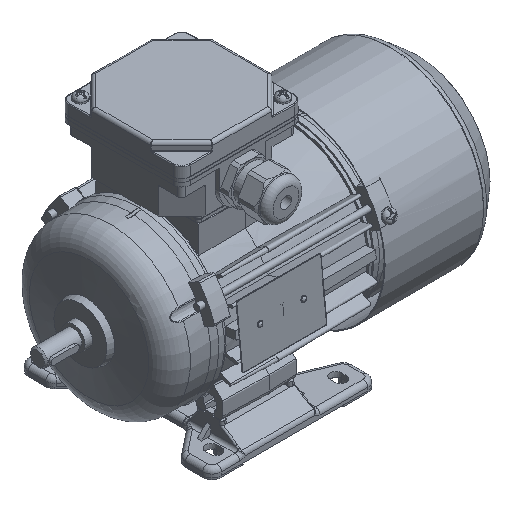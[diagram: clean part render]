
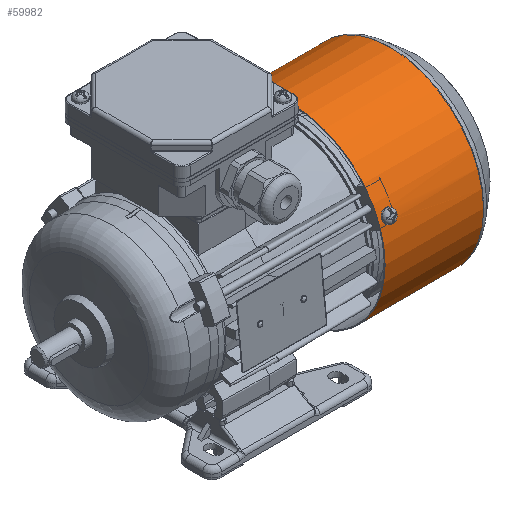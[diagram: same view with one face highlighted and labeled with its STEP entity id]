
A CAD part, isometric view. The second image highlights one B-rep face of the part: STEP entity #59982.
In plain terms, the highlighted cylindrical face has radius 59.6 mm (diameter 119.2 mm), a full revolution.
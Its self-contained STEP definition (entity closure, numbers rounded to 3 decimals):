
#1370=CYLINDRICAL_SURFACE('',#63666,59.6);
#1945=B_SPLINE_CURVE_WITH_KNOTS('',3,(#89982,#89983,#89984,#89985,#89986,
#89987,#89988),.UNSPECIFIED.,.F.,.F.,(4,1,1,1,4),(0.,
0.002,0.004,0.006,0.007),
 .UNSPECIFIED.);
#1946=B_SPLINE_CURVE_WITH_KNOTS('',3,(#89990,#89991,#89992,#89993,#89994,
#89995,#89996),.UNSPECIFIED.,.F.,.F.,(4,1,1,1,4),(0.,
0.002,0.004,0.006,0.007),
 .UNSPECIFIED.);
#1947=B_SPLINE_CURVE_WITH_KNOTS('',3,(#90002,#90003,#90004,#90005,#90006,
#90007,#90008),.UNSPECIFIED.,.F.,.F.,(4,1,1,1,4),(0.,0.002,
0.004,0.006,0.008),
 .UNSPECIFIED.);
#1948=B_SPLINE_CURVE_WITH_KNOTS('',3,(#90016,#90017,#90018,#90019,#90020,
#90021,#90022),.UNSPECIFIED.,.F.,.F.,(4,1,1,1,4),(0.,
0.002,0.004,0.006,0.008),
 .UNSPECIFIED.);
#1949=B_SPLINE_CURVE_WITH_KNOTS('',3,(#90033,#90034,#90035,#90036,#90037,
#90038,#90039),.UNSPECIFIED.,.F.,.F.,(4,1,1,1,4),(0.,0.002,
0.004,0.006,0.008),
 .UNSPECIFIED.);
#1950=B_SPLINE_CURVE_WITH_KNOTS('',3,(#90047,#90048,#90049,#90050,#90051,
#90052,#90053),.UNSPECIFIED.,.F.,.F.,(4,1,1,1,4),(0.,0.002,
0.004,0.006,0.008),
 .UNSPECIFIED.);
#3841=CIRCLE('',#63573,59.6);
#3842=CIRCLE('',#63576,59.6);
#3843=CIRCLE('',#63578,59.6);
#3844=CIRCLE('',#63581,59.6);
#3845=CIRCLE('',#63584,59.6);
#3887=CIRCLE('',#63667,59.6);
#13577=ORIENTED_EDGE('',*,*,#21996,.T.);
#13578=ORIENTED_EDGE('',*,*,#21994,.T.);
#13579=ORIENTED_EDGE('',*,*,#21992,.T.);
#13580=ORIENTED_EDGE('',*,*,#21997,.T.);
#13581=ORIENTED_EDGE('',*,*,#21979,.F.);
#13582=ORIENTED_EDGE('',*,*,#21980,.F.);
#13583=ORIENTED_EDGE('',*,*,#21987,.T.);
#13584=ORIENTED_EDGE('',*,*,#21985,.T.);
#13585=ORIENTED_EDGE('',*,*,#21983,.T.);
#13586=ORIENTED_EDGE('',*,*,#21988,.T.);
#13587=ORIENTED_EDGE('',*,*,#22100,.F.);
#13588=ORIENTED_EDGE('',*,*,#21989,.T.);
#21979=EDGE_CURVE('',#26904,#26903,#1945,.T.);
#21980=EDGE_CURVE('',#26903,#26904,#1946,.T.);
#21983=EDGE_CURVE('',#26952,#26953,#1947,.T.);
#21985=EDGE_CURVE('',#26954,#26952,#3841,.F.);
#21987=EDGE_CURVE('',#26955,#26954,#1948,.T.);
#21988=EDGE_CURVE('',#26953,#26955,#3842,.F.);
#21989=EDGE_CURVE('',#26956,#26956,#3843,.F.);
#21992=EDGE_CURVE('',#26957,#26958,#1949,.T.);
#21994=EDGE_CURVE('',#26959,#26957,#3844,.F.);
#21996=EDGE_CURVE('',#26960,#26959,#1950,.T.);
#21997=EDGE_CURVE('',#26958,#26960,#3845,.F.);
#22100=EDGE_CURVE('',#27038,#27038,#3887,.T.);
#26903=VERTEX_POINT('',#89819);
#26904=VERTEX_POINT('',#89820);
#26952=VERTEX_POINT('',#89999);
#26953=VERTEX_POINT('',#90001);
#26954=VERTEX_POINT('',#90011);
#26955=VERTEX_POINT('',#90015);
#26956=VERTEX_POINT('',#90027);
#26957=VERTEX_POINT('',#90030);
#26958=VERTEX_POINT('',#90032);
#26959=VERTEX_POINT('',#90042);
#26960=VERTEX_POINT('',#90046);
#27038=VERTEX_POINT('',#90364);
#36678=EDGE_LOOP('',(#13577,#13578,#13579,#13580));
#36679=EDGE_LOOP('',(#13581,#13582));
#36680=EDGE_LOOP('',(#13583,#13584,#13585,#13586));
#36681=EDGE_LOOP('',(#13587));
#36682=EDGE_LOOP('',(#13588));
#39460=FACE_BOUND('',#36678,.T.);
#39461=FACE_BOUND('',#36679,.T.);
#39462=FACE_BOUND('',#36680,.T.);
#39463=FACE_BOUND('',#36681,.T.);
#39464=FACE_BOUND('',#36682,.T.);
#59982=ADVANCED_FACE('',(#39460,#39461,#39462,#39463,#39464),#1370,.T.);
#63573=AXIS2_PLACEMENT_3D('',#90012,#73464,#73465);
#63576=AXIS2_PLACEMENT_3D('',#90024,#73471,#73472);
#63578=AXIS2_PLACEMENT_3D('',#90026,#73475,#73476);
#63581=AXIS2_PLACEMENT_3D('',#90043,#73484,#73485);
#63584=AXIS2_PLACEMENT_3D('',#90055,#73491,#73492);
#63666=AXIS2_PLACEMENT_3D('',#90362,#73706,#73707);
#63667=AXIS2_PLACEMENT_3D('',#90363,#73708,#73709);
#73464=DIRECTION('',(-1.,0.,0.));
#73465=DIRECTION('',(0.,0.866,-0.5));
#73471=DIRECTION('',(1.,0.,0.));
#73472=DIRECTION('',(0.,-0.866,0.5));
#73475=DIRECTION('',(1.,0.,0.));
#73476=DIRECTION('',(0.,0.,-1.));
#73484=DIRECTION('',(-1.,0.,0.));
#73485=DIRECTION('',(0.,0.,1.));
#73491=DIRECTION('',(1.,0.,0.));
#73492=DIRECTION('',(0.,0.,-1.));
#73706=DIRECTION('',(-1.,0.,0.));
#73707=DIRECTION('',(0.,0.,1.));
#73708=DIRECTION('',(-1.,0.,0.));
#73709=DIRECTION('',(0.,0.,1.));
#89819=CARTESIAN_POINT('',(67.,8.295,-59.02));
#89820=CARTESIAN_POINT('',(72.,8.295,-59.02));
#89982=CARTESIAN_POINT('',(72.,8.295,-59.02));
#89983=CARTESIAN_POINT('',(71.937,7.681,-59.106));
#89984=CARTESIAN_POINT('',(71.356,6.499,-59.249));
#89985=CARTESIAN_POINT('',(69.502,5.777,-59.318));
#89986=CARTESIAN_POINT('',(67.649,6.493,-59.25));
#89987=CARTESIAN_POINT('',(67.063,7.681,-59.106));
#89988=CARTESIAN_POINT('',(67.,8.295,-59.02));
#89990=CARTESIAN_POINT('',(67.,8.295,-59.02));
#89991=CARTESIAN_POINT('',(67.063,8.908,-58.934));
#89992=CARTESIAN_POINT('',(67.644,10.084,-58.746));
#89993=CARTESIAN_POINT('',(69.498,10.797,-58.613));
#89994=CARTESIAN_POINT('',(71.351,10.09,-58.745));
#89995=CARTESIAN_POINT('',(71.937,8.908,-58.934));
#89996=CARTESIAN_POINT('',(72.,8.295,-59.02));
#89999=CARTESIAN_POINT('',(72.,46.437,37.36));
#90001=CARTESIAN_POINT('',(67.,46.437,37.36));
#90002=CARTESIAN_POINT('',(72.,46.437,37.36));
#90003=CARTESIAN_POINT('',(72.,46.023,37.874));
#90004=CARTESIAN_POINT('',(71.458,45.191,38.867));
#90005=CARTESIAN_POINT('',(69.502,44.648,39.479));
#90006=CARTESIAN_POINT('',(67.542,45.19,38.869));
#90007=CARTESIAN_POINT('',(67.,46.023,37.874));
#90008=CARTESIAN_POINT('',(67.,46.437,37.36));
#90011=CARTESIAN_POINT('',(72.,47.484,36.02));
#90012=CARTESIAN_POINT('',(72.,0.,0.));
#90015=CARTESIAN_POINT('',(67.,47.484,36.02));
#90016=CARTESIAN_POINT('',(67.,47.484,36.02));
#90017=CARTESIAN_POINT('',(67.,47.883,35.493));
#90018=CARTESIAN_POINT('',(67.542,48.645,34.446));
#90019=CARTESIAN_POINT('',(69.498,49.108,33.771));
#90020=CARTESIAN_POINT('',(71.458,48.646,34.444));
#90021=CARTESIAN_POINT('',(72.,47.883,35.493));
#90022=CARTESIAN_POINT('',(72.,47.484,36.02));
#90024=CARTESIAN_POINT('',(67.,0.,0.));
#90026=CARTESIAN_POINT('',(126.809,0.,0.));
#90027=CARTESIAN_POINT('',(126.809,0.,-59.6));
#90030=CARTESIAN_POINT('',(72.,-55.573,21.536));
#90032=CARTESIAN_POINT('',(67.,-55.573,21.536));
#90033=CARTESIAN_POINT('',(72.,-55.573,21.536));
#90034=CARTESIAN_POINT('',(72.,-55.812,20.92));
#90035=CARTESIAN_POINT('',(71.458,-56.255,19.703));
#90036=CARTESIAN_POINT('',(69.502,-56.514,18.927));
#90037=CARTESIAN_POINT('',(67.542,-56.256,19.701));
#90038=CARTESIAN_POINT('',(67.,-55.812,20.92));
#90039=CARTESIAN_POINT('',(67.,-55.573,21.536));
#90042=CARTESIAN_POINT('',(72.,-54.936,23.112));
#90043=CARTESIAN_POINT('',(72.,0.,0.));
#90046=CARTESIAN_POINT('',(67.,-54.936,23.112));
#90047=CARTESIAN_POINT('',(67.,-54.936,23.112));
#90048=CARTESIAN_POINT('',(67.,-54.68,23.721));
#90049=CARTESIAN_POINT('',(67.542,-54.154,24.905));
#90050=CARTESIAN_POINT('',(69.498,-53.8,25.643));
#90051=CARTESIAN_POINT('',(71.458,-54.153,24.907));
#90052=CARTESIAN_POINT('',(72.,-54.68,23.721));
#90053=CARTESIAN_POINT('',(72.,-54.936,23.112));
#90055=CARTESIAN_POINT('',(67.,0.,0.));
#90362=CARTESIAN_POINT('',(3.5,0.,0.));
#90363=CARTESIAN_POINT('',(63.5,0.,0.));
#90364=CARTESIAN_POINT('',(63.5,0.,59.6));
